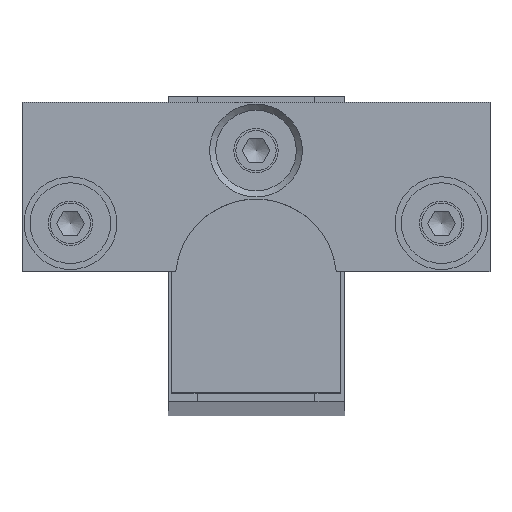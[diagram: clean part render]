
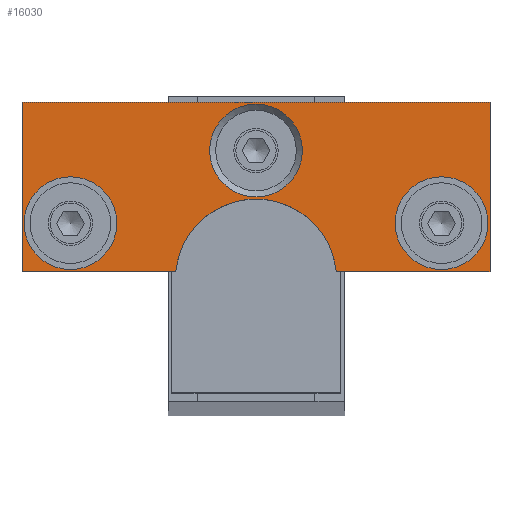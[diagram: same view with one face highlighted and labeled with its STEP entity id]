
A CAD part, top view. The second image highlights one B-rep face of the part: STEP entity #16030.
In plain terms, the highlighted planar face has unit normal (0, 0, 1).
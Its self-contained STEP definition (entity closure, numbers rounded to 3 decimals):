
#289=FACE_BOUND('',#2341,.T.);
#290=FACE_BOUND('',#2342,.T.);
#291=FACE_BOUND('',#2343,.T.);
#492=PLANE('',#17626);
#1347=FACE_OUTER_BOUND('',#2340,.T.);
#2340=EDGE_LOOP('',(#12034,#12035,#12036,#12037,#12038,#12039));
#2341=EDGE_LOOP('',(#12040));
#2342=EDGE_LOOP('',(#12041));
#2343=EDGE_LOOP('',(#12042));
#3425=LINE('',#29762,#4010);
#3426=LINE('',#29764,#4011);
#3427=LINE('',#29766,#4012);
#3428=LINE('',#29770,#4013);
#3429=LINE('',#29771,#4014);
#4010=VECTOR('',#21290,10.);
#4011=VECTOR('',#21291,10.);
#4012=VECTOR('',#21292,10.);
#4013=VECTOR('',#21295,10.);
#4014=VECTOR('',#21296,10.);
#4920=CIRCLE('',#17624,5.75);
#4922=CIRCLE('',#17627,10.);
#4923=CIRCLE('',#17628,5.75);
#4924=CIRCLE('',#17629,5.75);
#6591=VERTEX_POINT('',#29754);
#6593=VERTEX_POINT('',#29760);
#6594=VERTEX_POINT('',#29761);
#6595=VERTEX_POINT('',#29763);
#6596=VERTEX_POINT('',#29765);
#6597=VERTEX_POINT('',#29767);
#6598=VERTEX_POINT('',#29769);
#6599=VERTEX_POINT('',#29772);
#6600=VERTEX_POINT('',#29774);
#8628=EDGE_CURVE('',#6591,#6591,#4920,.T.);
#8631=EDGE_CURVE('',#6593,#6594,#3425,.T.);
#8632=EDGE_CURVE('',#6594,#6595,#3426,.T.);
#8633=EDGE_CURVE('',#6595,#6596,#3427,.T.);
#8634=EDGE_CURVE('',#6596,#6597,#4922,.T.);
#8635=EDGE_CURVE('',#6597,#6598,#3428,.T.);
#8636=EDGE_CURVE('',#6598,#6593,#3429,.T.);
#8637=EDGE_CURVE('',#6599,#6599,#4923,.T.);
#8638=EDGE_CURVE('',#6600,#6600,#4924,.T.);
#12034=ORIENTED_EDGE('',*,*,#8631,.T.);
#12035=ORIENTED_EDGE('',*,*,#8632,.T.);
#12036=ORIENTED_EDGE('',*,*,#8633,.T.);
#12037=ORIENTED_EDGE('',*,*,#8634,.T.);
#12038=ORIENTED_EDGE('',*,*,#8635,.T.);
#12039=ORIENTED_EDGE('',*,*,#8636,.T.);
#12040=ORIENTED_EDGE('',*,*,#8637,.F.);
#12041=ORIENTED_EDGE('',*,*,#8638,.F.);
#12042=ORIENTED_EDGE('',*,*,#8628,.F.);
#16030=ADVANCED_FACE('',(#1347,#289,#290,#291),#492,.T.);
#17624=AXIS2_PLACEMENT_3D('',#29755,#21283,#21284);
#17626=AXIS2_PLACEMENT_3D('',#29759,#21288,#21289);
#17627=AXIS2_PLACEMENT_3D('',#29768,#21293,#21294);
#17628=AXIS2_PLACEMENT_3D('',#29773,#21297,#21298);
#17629=AXIS2_PLACEMENT_3D('',#29775,#21299,#21300);
#21283=DIRECTION('center_axis',(0.,0.,
1.));
#21284=DIRECTION('ref_axis',(-1.,0.,0.));
#21288=DIRECTION('center_axis',(0.,0.,
1.));
#21289=DIRECTION('ref_axis',(1.,0.,0.));
#21290=DIRECTION('',(-1.,0.,0.));
#21291=DIRECTION('',(0.,-1.,0.));
#21292=DIRECTION('',(1.,0.,0.));
#21293=DIRECTION('center_axis',(0.,0.,
-1.));
#21294=DIRECTION('ref_axis',(0.995,0.1,0.));
#21295=DIRECTION('',(1.,0.,0.));
#21296=DIRECTION('',(0.,1.,0.));
#21297=DIRECTION('center_axis',(0.,0.,
1.));
#21298=DIRECTION('ref_axis',(-1.,0.,0.));
#21299=DIRECTION('center_axis',(0.,0.,
1.));
#21300=DIRECTION('ref_axis',(-1.,0.,0.));
#29754=CARTESIAN_POINT('',(39.65,22.,556.));
#29755=CARTESIAN_POINT('Origin',(33.9,22.,556.));
#29759=CARTESIAN_POINT('Origin',(10.9,27.153,556.));
#29760=CARTESIAN_POINT('',(39.9,37.,556.));
#29761=CARTESIAN_POINT('',(-18.1,37.,556.));
#29762=CARTESIAN_POINT('',(-18.1,37.,556.));
#29763=CARTESIAN_POINT('',(-18.1,16.,556.));
#29764=CARTESIAN_POINT('',(-18.1,16.,556.));
#29765=CARTESIAN_POINT('',(0.95,16.,556.));
#29766=CARTESIAN_POINT('',(0.95,16.,556.));
#29767=CARTESIAN_POINT('',(20.85,16.,556.));
#29768=CARTESIAN_POINT('Origin',(10.9,15.,556.));
#29769=CARTESIAN_POINT('',(39.9,16.,556.));
#29770=CARTESIAN_POINT('',(39.9,16.,556.));
#29771=CARTESIAN_POINT('',(39.9,37.,556.));
#29772=CARTESIAN_POINT('',(16.65,31.,556.));
#29773=CARTESIAN_POINT('Origin',(10.9,31.,556.));
#29774=CARTESIAN_POINT('',(-6.35,22.,556.));
#29775=CARTESIAN_POINT('Origin',(-12.1,22.,556.));
